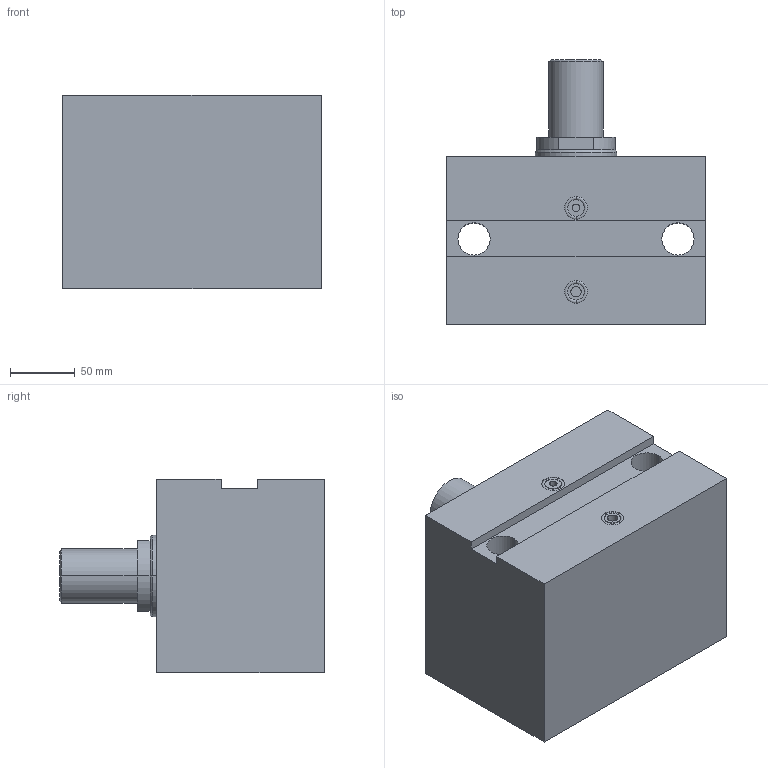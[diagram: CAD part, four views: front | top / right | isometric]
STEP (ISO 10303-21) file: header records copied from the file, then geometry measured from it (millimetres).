
FILE_DESCRIPTION (( 'STEP AP203' ), '1' );
FILE_NAME ('GERMA_Blockzylinder_604-100-040-A.STEP', '2016-01-25T10:42:02', ( '' ), ( '' ), 'SwSTEP 2.0', 'SolidWorks 2015', '' );
FILE_SCHEMA (( 'CONFIG_CONTROL_DESIGN' ));
Length unit declared in the file: millimetre
Products named in the file (3): GH-600-100_GH-604-100-040; Kolben 60x-100_Kolben DU.100-Hub40-AG; GERMA_Blockzylinder_604-100-040-A
Assembly tree (2 placements, depth 2):
  GERMA_Blockzylinder_604-100-040-A
    GH-600-100_GH-604-100-040
    Kolben 60x-100_Kolben DU.100-Hub40-AG
Bounding box: 200 x 205 x 150 mm (x, y, z)
Volume: 3655214.8 mm3; surface area: 265264.3 mm2
Topology: 2 solids, 2 shells, 77 faces, 166 edges, 101 vertices
Faces by surface type: cylinder 35, plane 26, cone 12, torus 4
Entity records: 2386 total; most frequent: DIRECTION 411, CARTESIAN_POINT 345, ORIENTED_EDGE 324, AXIS2_PLACEMENT_3D 167, EDGE_CURVE 162, VERTEX_POINT 101, EDGE_LOOP 93, CIRCLE 85
